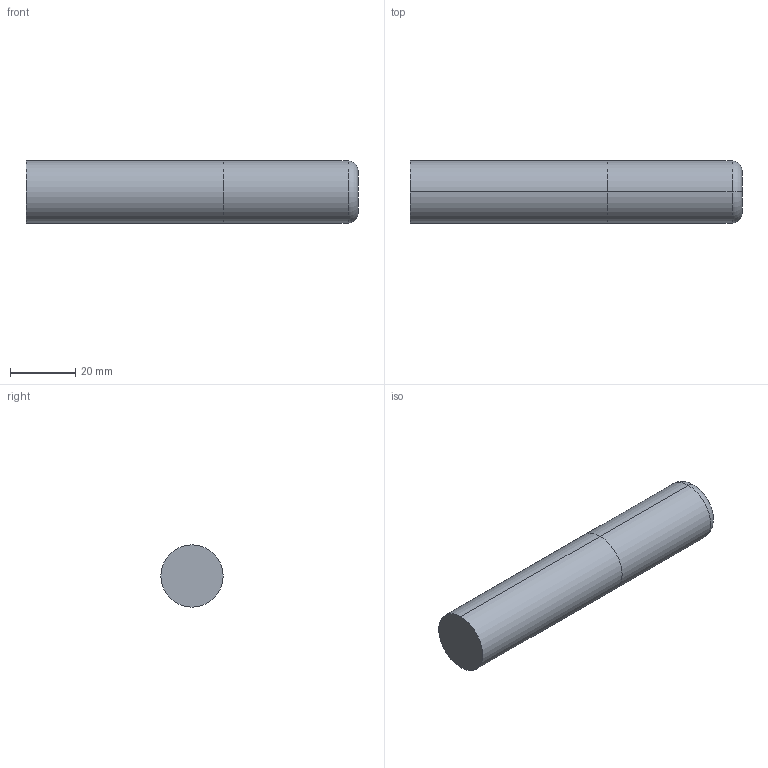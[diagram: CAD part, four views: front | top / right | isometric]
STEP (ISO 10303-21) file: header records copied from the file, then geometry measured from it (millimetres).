
FILE_DESCRIPTION (( 'STEP AP214' ), '1' );
FILE_NAME ('SSI70750-120.STEP', '2025-05-29T20:26:48', ( '' ), ( '' ), 'SwSTEP 2.0', 'SolidWorks 2023', '' );
FILE_SCHEMA (( 'AUTOMOTIVE_DESIGN' ));
Length unit declared in the file: inch
Products named in the file (3): SSI7 Shank Only_SSI70750-120; SSI7 Cut Only_SSI70750-120; SSI70750-120
Assembly tree (2 placements, depth 2):
  SSI70750-120
    SSI7 Cut Only_SSI70750-120
    SSI7 Shank Only_SSI70750-120
Bounding box: 101.6 x 19.05 x 19.05 mm (x, y, z)
Volume: 28847.5 mm3; surface area: 7138.2 mm2
Topology: 2 solids, 2 shells, 10 faces, 16 edges, 10 vertices
Faces by surface type: cylinder 4, plane 4, torus 2
Entity records: 334 total; most frequent: DIRECTION 58, CARTESIAN_POINT 41, ORIENTED_EDGE 32, AXIS2_PLACEMENT_3D 27, EDGE_CURVE 16, CIRCLE 12, FACE_OUTER_BOUND 10, ADVANCED_FACE 10
